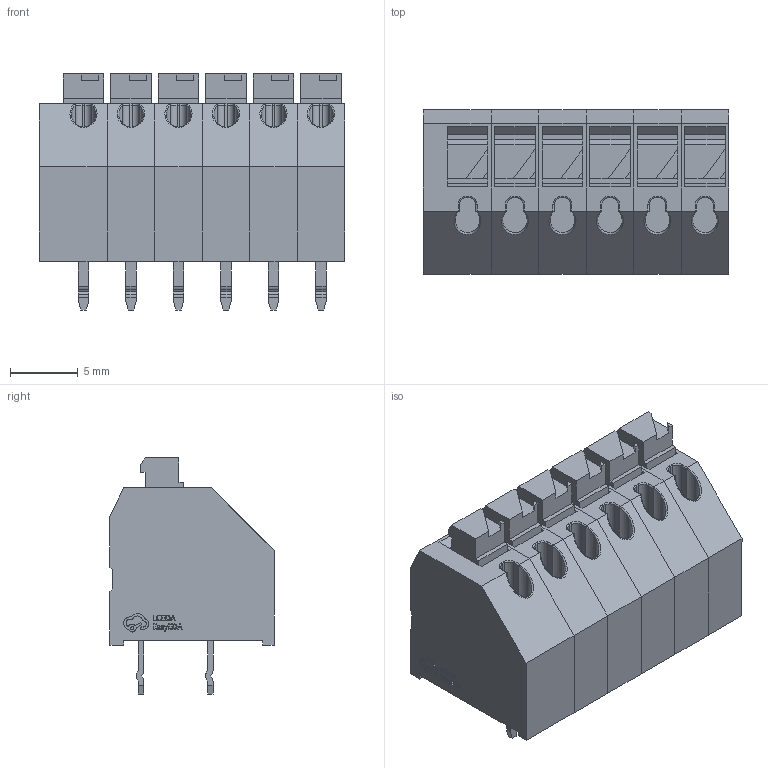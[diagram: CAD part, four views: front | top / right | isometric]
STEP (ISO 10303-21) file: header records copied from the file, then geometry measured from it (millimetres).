
FILE_DESCRIPTION (( 'STEP AP214' ), '1' );
FILE_NAME ('CONN-TH_6P-P3.50_MX250-3.5-06P-B-GY01-CU-A.STEP', '2024-03-13T14:27:02', ( '' ), ( '' ), 'SwSTEP 2.0', 'SolidWorks 2020', '' );
FILE_SCHEMA (( 'AUTOMOTIVE_DESIGN' ));
Length unit declared in the file: millimetre
Products named in the file (1): CONN-TH_6P-P3.50_MX250-3.5-06P-B-GY01-CU-A
Bounding box: 22.51 x 12.1 x 17.4 mm (x, y, z)
Volume: 2810.8 mm3; surface area: 3012.1 mm2
Topology: 25 solids, 25 shells, 816 faces, 2067 edges, 1362 vertices
Faces by surface type: plane 524, cylinder 176, bspline 104, torus 12
Entity records: 34566 total; most frequent: CARTESIAN_POINT 6320, ORIENTED_EDGE 4134, DIRECTION 3567, EDGE_CURVE 2067, VECTOR 1473, LINE 1473, VERTEX_POINT 1362, AXIS2_PLACEMENT_3D 1047
